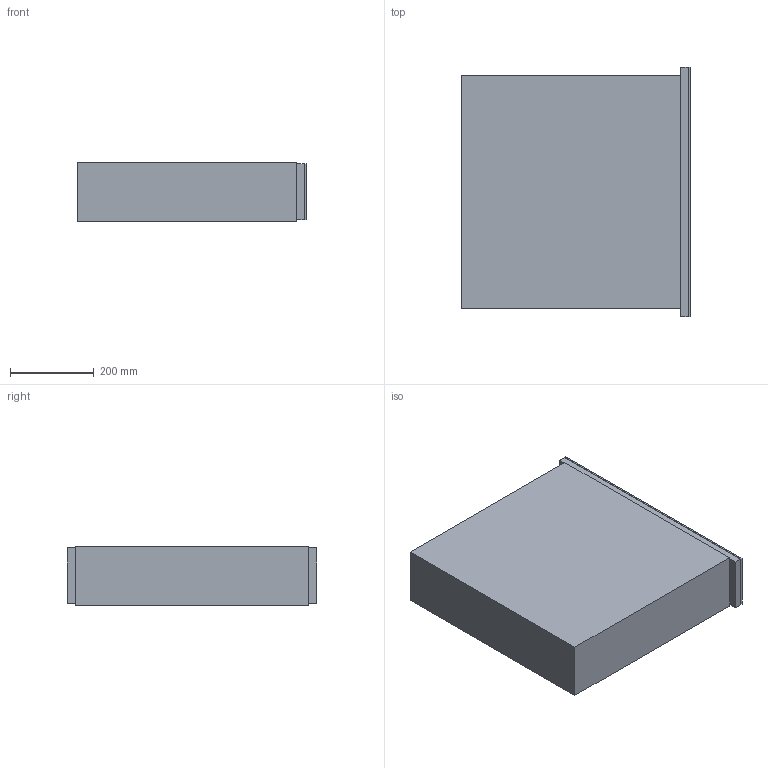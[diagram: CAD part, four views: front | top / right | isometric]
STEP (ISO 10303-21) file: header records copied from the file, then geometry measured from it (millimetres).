
FILE_DESCRIPTION(/* description */ (''),/* implementation_level */ '2;1');
FILE_NAME(/* name */ 'ESW6214_HVBR',/* time_stamp */ '2013-03-10T17:51:01+01:00',/* author */ (''),/* organization */ (''),/* preprocessor_version */ 'ST-DEVELOPER v10',/* originating_system */ '',/* authorisation */ '');
FILE_SCHEMA (('AUTOMOTIVE_DESIGN_CC2'));
Length unit declared in the file: millimetre
Products named in the file (1): 1
Bounding box: 545.3 x 595.5 x 141.16 mm (x, y, z)
Volume: 42816054.6 mm3; surface area: 1236884 mm2
Topology: 3 solids, 3 shells, 18 faces, 36 edges, 24 vertices
Faces by surface type: bspline 18
Entity records: 459 total; most frequent: CARTESIAN_POINT 169, ORIENTED_EDGE 72, EDGE_CURVE 36, B_SPLINE_CURVE_WITH_KNOTS 36, VERTEX_POINT 24, ADVANCED_FACE 18, FACE_OUTER_BOUND 18, EDGE_LOOP 18
